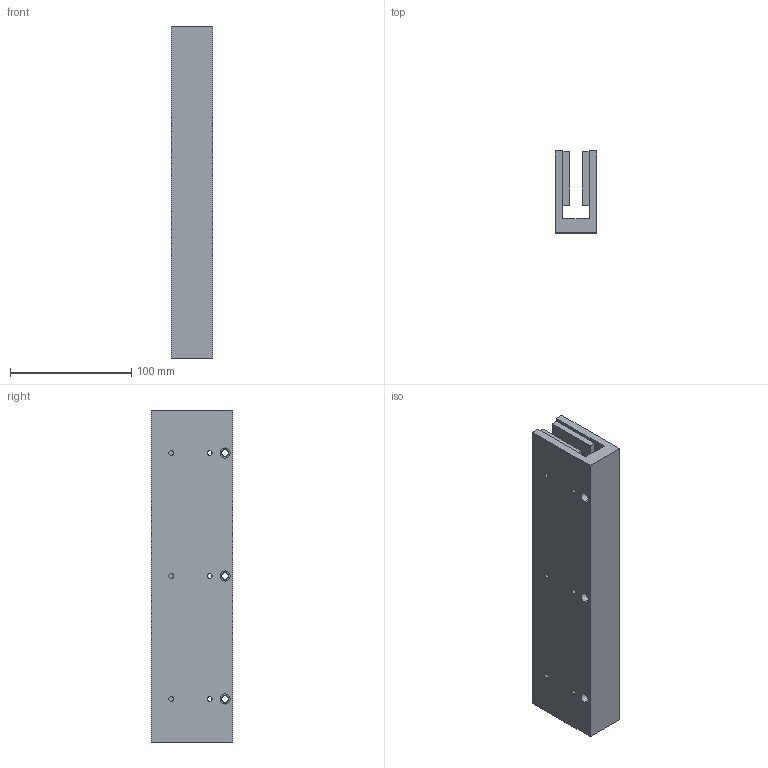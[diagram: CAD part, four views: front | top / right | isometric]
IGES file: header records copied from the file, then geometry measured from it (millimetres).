
Global section: file name: No Iges File Name specified; native system: Autodesk Inventor 2009; preprocessor: AutoDesk Inventor Iges Exporter R2009; author: je17857; date: 20091116.111445; units: inch
Bounding box: 34.29 x 67.31 x 274.32 mm (x, y, z)
Volume: 409702.5 mm3; surface area: 105223.3 mm2
Topology: 1 solids, 1 shells, 154 faces, 366 edges, 244 vertices
Faces by surface type: plane 106, bspline 48
